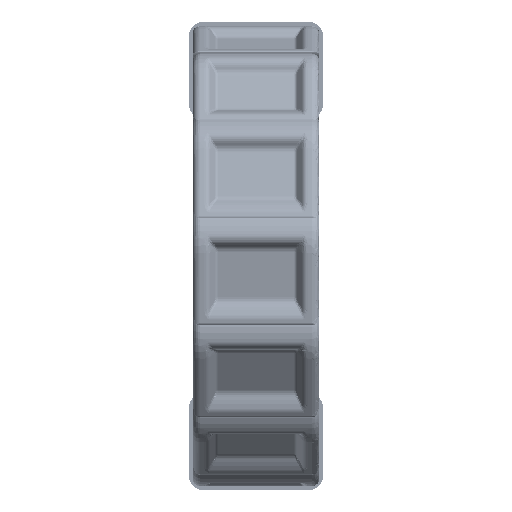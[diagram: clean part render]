
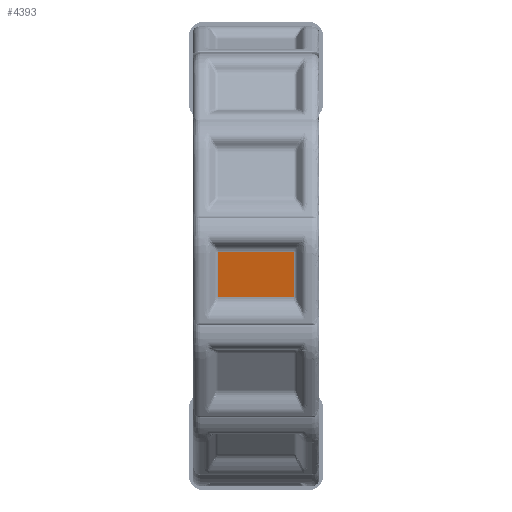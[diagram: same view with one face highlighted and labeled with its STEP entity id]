
A CAD part, front view. The second image highlights one B-rep face of the part: STEP entity #4393.
In plain terms, the highlighted planar face has unit normal (0, -0.988, -0.157) as drawn and (0, 0, -1) by its records, which use the part's own axes.
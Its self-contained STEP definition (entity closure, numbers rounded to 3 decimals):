
#1760=CARTESIAN_POINT('',(40.061,1.357,4.));
#1761=VERTEX_POINT('',#1760);
#1807=CARTESIAN_POINT('',(40.061,19.177,4.));
#1808=VERTEX_POINT('',#1807);
#1818=CARTESIAN_POINT('',(40.061,19.177,4.));
#1819=DIRECTION('',(0.0,-1.0,0.0));
#1820=VECTOR('',#1819,17.821);
#1821=LINE('',#1818,#1820);
#1822=EDGE_CURVE('',#1808,#1761,#1821,.T.);
#4350=CARTESIAN_POINT('',(9.939,19.177,4.));
#4351=VERTEX_POINT('',#4350);
#4352=CARTESIAN_POINT('',(40.061,19.177,4.));
#4353=DIRECTION('',(-1.0,0.0,0.0));
#4354=VECTOR('',#4353,30.121);
#4355=LINE('',#4352,#4354);
#4356=EDGE_CURVE('',#1808,#4351,#4355,.T.);
#4370=CARTESIAN_POINT('',(6.,20.7,4.));
#4371=DIRECTION('',(0.0,0.0,-1.0));
#4372=DIRECTION('',(1.0,0.0,0.0));
#4373=AXIS2_PLACEMENT_3D('',#4370,#4371,#4372);
#4374=PLANE('',#4373);
#4375=CARTESIAN_POINT('',(9.939,1.357,4.));
#4376=VERTEX_POINT('',#4375);
#4377=CARTESIAN_POINT('',(40.061,1.357,4.));
#4378=DIRECTION('',(-1.0,0.0,0.0));
#4379=VECTOR('',#4378,30.121);
#4380=LINE('',#4377,#4379);
#4381=EDGE_CURVE('',#1761,#4376,#4380,.T.);
#4382=ORIENTED_EDGE('',*,*,#4381,.T.);
#4383=CARTESIAN_POINT('',(9.939,19.177,4.));
#4384=DIRECTION('',(0.0,-1.0,0.0));
#4385=VECTOR('',#4384,17.821);
#4386=LINE('',#4383,#4385);
#4387=EDGE_CURVE('',#4351,#4376,#4386,.T.);
#4388=ORIENTED_EDGE('',*,*,#4387,.F.);
#4389=ORIENTED_EDGE('',*,*,#4356,.F.);
#4390=ORIENTED_EDGE('',*,*,#1822,.T.);
#4391=EDGE_LOOP('',(#4382,#4388,#4389,#4390));
#4392=FACE_OUTER_BOUND('',#4391,.T.);
#4393=ADVANCED_FACE('',(#4392),#4374,.T.);
